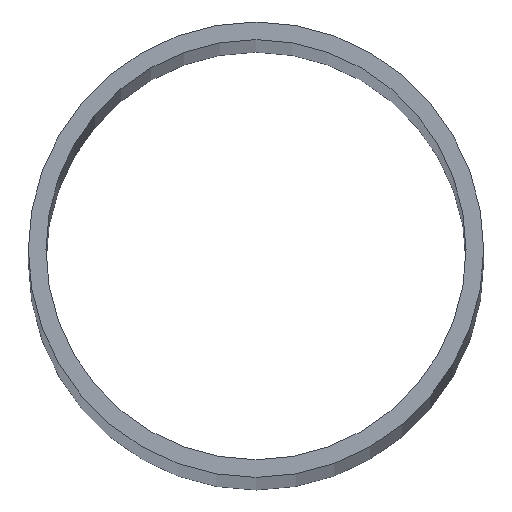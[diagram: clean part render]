
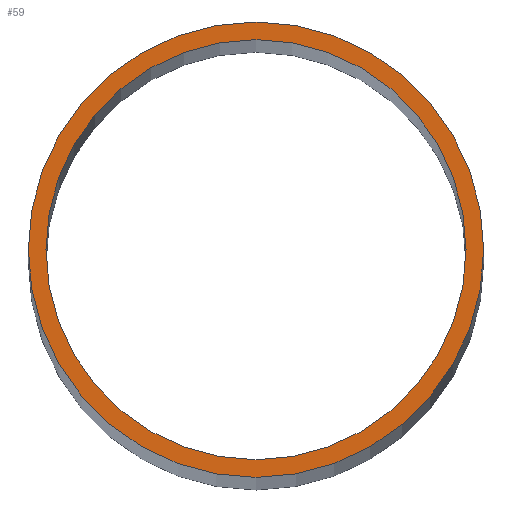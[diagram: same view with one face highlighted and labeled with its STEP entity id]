
A CAD part, top view. The second image highlights one B-rep face of the part: STEP entity #59.
In plain terms, the highlighted planar face has unit normal (0, 0, 1).
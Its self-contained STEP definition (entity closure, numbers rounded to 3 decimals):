
#12=PLANE($,#70);
#16=FACE_BOUND($,#26,.T.);
#17=FACE_BOUND($,#27,.T.);
#26=EDGE_LOOP($,(#46));
#27=EDGE_LOOP($,(#47));
#30=CIRCLE($,#65,145.3);
#32=CIRCLE($,#68,157.5);
#34=VERTEX_POINT($,#92);
#36=VERTEX_POINT($,#97);
#38=EDGE_CURVE($,#34,#34,#30,.T.);
#40=EDGE_CURVE($,#36,#36,#32,.T.);
#46=ORIENTED_EDGE($,*,*,#38,.T.);
#47=ORIENTED_EDGE($,*,*,#40,.F.);
#59=ADVANCED_FACE($,(#16,#17),#12,.F.);
#65=AXIS2_PLACEMENT_3D($,#93,#76,#77);
#68=AXIS2_PLACEMENT_3D($,#98,#82,#83);
#70=AXIS2_PLACEMENT_3D($,#101,#86,#87);
#76=DIRECTION('center_axis',(0.,0.,-1.));
#77=DIRECTION('ref_axis',(-1.,0.,0.));
#82=DIRECTION('center_axis',(0.,0.,-1.));
#83=DIRECTION('ref_axis',(-1.,0.,0.));
#86=DIRECTION('center_axis',(0.,0.,-1.));
#87=DIRECTION('ref_axis',(-1.,0.,0.));
#92=CARTESIAN_POINT('',(145.3,0.,5000.));
#93=CARTESIAN_POINT('Origin',(0.,0.,5000.));
#97=CARTESIAN_POINT('',(157.5,0.,5000.));
#98=CARTESIAN_POINT('Origin',(0.,0.,5000.));
#101=CARTESIAN_POINT('Origin',(0.,0.,5000.));
